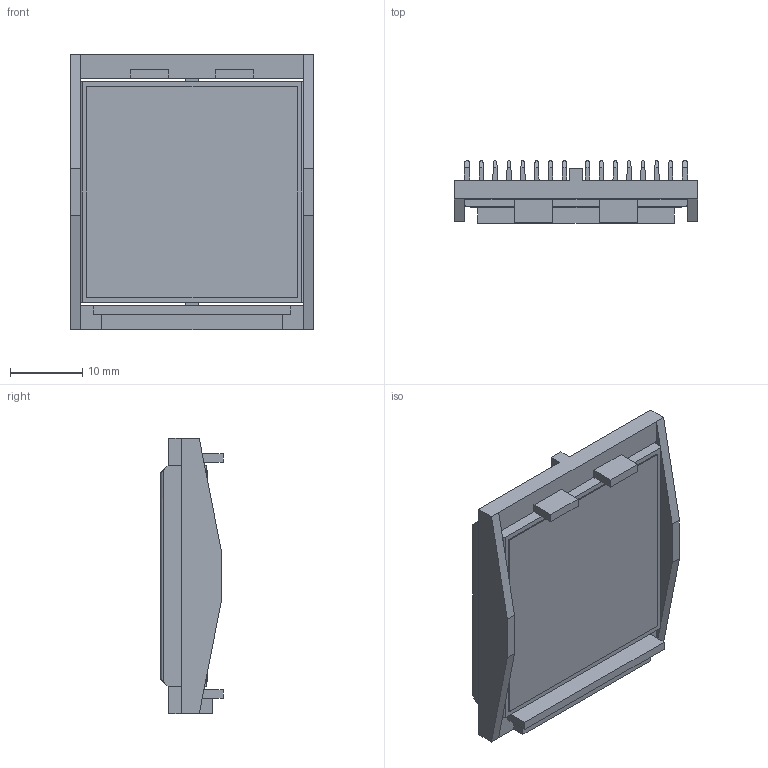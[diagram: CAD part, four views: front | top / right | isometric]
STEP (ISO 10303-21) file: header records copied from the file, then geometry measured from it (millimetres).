
FILE_DESCRIPTION (( 'STEP AP214' ), '1' );
FILE_NAME ('INL31001-6-1.7Y.STEP', '2023-02-22T19:36:24', ( '' ), ( '' ), 'SwSTEP 2.0', 'SolidWorks 2020', '' );
FILE_SCHEMA (( 'AUTOMOTIVE_DESIGN' ));
Length unit declared in the file: millimetre
Products named in the file (1): INL31001-6-1.7Y
Bounding box: 33.6 x 8.6 x 38.1 mm (x, y, z)
Volume: 4433.8 mm3; surface area: 10163.4 mm2
Topology: 3 solids, 3 shells, 184 faces, 536 edges, 356 vertices
Faces by surface type: plane 136, cylinder 48
Entity records: 8092 total; most frequent: CARTESIAN_POINT 1173, ORIENTED_EDGE 1072, DIRECTION 938, EDGE_CURVE 536, VECTOR 440, LINE 440, VERTEX_POINT 356, AXIS2_PLACEMENT_3D 249
